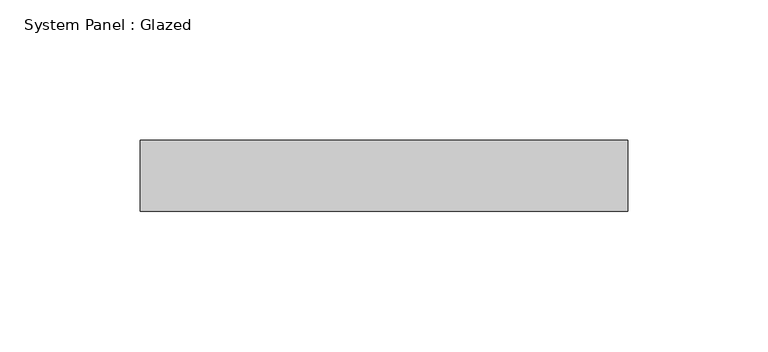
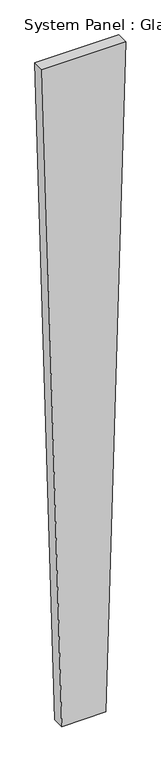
"""IFC4 building model written with IfcOpenShell, lengths in millimetres: plate geometry, System Panel : Glazed."""

from ifc_helpers import new_model, si_unit, frame, origin, place, context, project, spatial, polyline, outline, extrude, source, transform, mapped, element, save


def system_panel_glazed_ead5900b(model_context):
    return source(origin(), model_context, "Body", "SweptSolid", [
        extrude(outline(polyline([(0.0, -45.8880961), (0.0, 45.8880961), (1459.8930228, 87.1034953), (1459.8930228, -87.1034953), (0.0, -45.8880961)])), frame((0.0, 19.05, 0.0), z_axis=(0.0, 1.0, 0.0), x_axis=(0.0, 0.0, 1.0)), (0.0, 0.0, 1.0), 25.4),
    ])


if __name__ == "__main__":
    model = new_model("IFC4")
    model_context = context("Model", 3, world=origin())
    ifc_project = project(units=[si_unit("LENGTHUNIT", "METRE", prefix="MILLI")], contexts=[model_context])
    site = spatial("IfcSite", under=ifc_project)
    building = spatial("IfcBuilding", under=site)
    placement = place(None, origin())
    system_panel_glazed_shape = system_panel_glazed_ead5900b(model_context)
    element("IfcPlate", 1, ObjectType="System Panel : Glazed", at=placement, inside=building, context=model_context, shape_type="MappedRepresentation", body=[
        mapped(system_panel_glazed_shape, transform((0.0, 0.0, 0.0), x_axis=(1.0, 0.0, 0.0), y_axis=(0.0, 1.0, 0.0), z_axis=(0.0, 0.0, 1.0))),
    ])
    save(model, "model.ifc")
